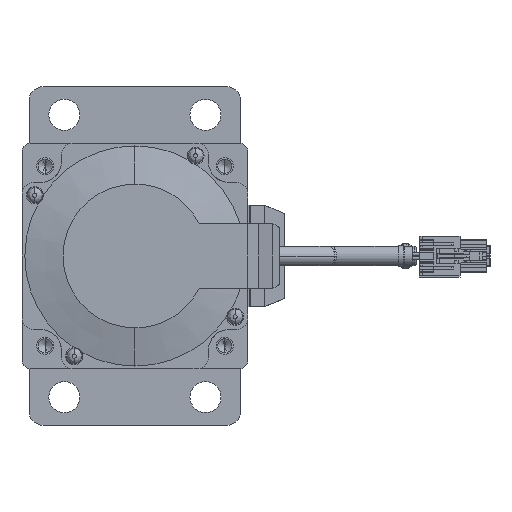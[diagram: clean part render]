
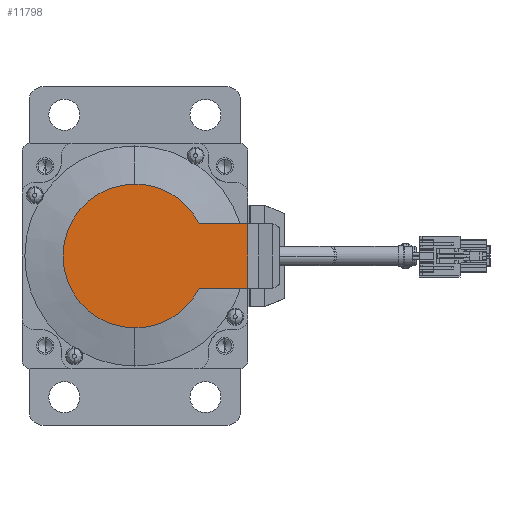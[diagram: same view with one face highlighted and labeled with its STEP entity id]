
A CAD part, left-side view. The second image highlights one B-rep face of the part: STEP entity #11798.
In plain terms, the highlighted planar face has unit normal (-1, 0, 0).
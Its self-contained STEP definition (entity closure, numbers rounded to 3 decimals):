
#673 = ORIENTED_EDGE ( 'NONE', *, *, #8398, .F. ) ;
#1908 = DIRECTION ( 'NONE',  ( 0., 0., 1. ) ) ;
#2193 = DIRECTION ( 'NONE',  ( 0., 0., -1. ) ) ;
#2278 = CARTESIAN_POINT ( 'NONE',  ( -112.2, 31.374, -11.45 ) ) ;
#2351 = AXIS2_PLACEMENT_3D ( 'NONE', #7949, #14394, #2193 ) ;
#4444 = CARTESIAN_POINT ( 'NONE',  ( -112.2, 0., -25.468 ) ) ;
#5031 = VECTOR ( 'NONE', #1908, 1000. ) ;
#6961 = ORIENTED_EDGE ( 'NONE', *, *, #16655, .F. ) ;
#7949 = CARTESIAN_POINT ( 'NONE',  ( -112.2, 0., 0. ) ) ;
#8267 = CARTESIAN_POINT ( 'NONE',  ( -112.2, 0., 25.468 ) ) ;
#8398 = EDGE_CURVE ( 'NONE', #30663, #23965, #36387, .T. ) ;
#8941 = CARTESIAN_POINT ( 'NONE',  ( -112.2, 40., 11.45 ) ) ;
#9222 = VERTEX_POINT ( 'NONE', #4444 ) ;
#10755 = ORIENTED_EDGE ( 'NONE', *, *, #18415, .F. ) ;
#10935 = ORIENTED_EDGE ( 'NONE', *, *, #26953, .F. ) ;
#11244 = CARTESIAN_POINT ( 'NONE',  ( -112.2, 31.374, 11.45 ) ) ;
#11798 = ADVANCED_FACE ( 'NONE', ( #29811 ), #15240, .T. ) ;
#12350 = DIRECTION ( 'NONE',  ( -1., 0., 0. ) ) ;
#13403 = CIRCLE ( 'NONE', #20141, 25.468 ) ;
#13766 = DIRECTION ( 'NONE',  ( 0., 1., 0. ) ) ;
#13860 = VECTOR ( 'NONE', #13766, 1000. ) ;
#14394 = DIRECTION ( 'NONE',  ( 1., 0., 0. ) ) ;
#14678 = CARTESIAN_POINT ( 'NONE',  ( -112.2, -25.468, 25.802 ) ) ;
#15240 = PLANE ( 'NONE',  #31417 ) ;
#16655 = EDGE_CURVE ( 'NONE', #36796, #27848, #28113, .T. ) ;
#18281 = AXIS2_PLACEMENT_3D ( 'NONE', #37242, #34757, #31495 ) ;
#18415 = EDGE_CURVE ( 'NONE', #27848, #9222, #13403, .T. ) ;
#18423 = EDGE_LOOP ( 'NONE', ( #10935, #33898, #10755, #6961, #36568, #673 ) ) ;
#18859 = CARTESIAN_POINT ( 'NONE',  ( -112.2, 22.749, 11.45 ) ) ;
#19482 = CIRCLE ( 'NONE', #2351, 25.468 ) ;
#20141 = AXIS2_PLACEMENT_3D ( 'NONE', #26465, #26643, #32770 ) ;
#20216 = EDGE_CURVE ( 'NONE', #23965, #36796, #20440, .T. ) ;
#20440 = LINE ( 'NONE', #11244, #20852 ) ;
#20852 = VECTOR ( 'NONE', #34636, 1000. ) ;
#21195 = DIRECTION ( 'NONE',  ( 0., 1., 0. ) ) ;
#22237 = LINE ( 'NONE', #2278, #13860 ) ;
#23965 = VERTEX_POINT ( 'NONE', #8941 ) ;
#24908 = CARTESIAN_POINT ( 'NONE',  ( -112.2, 40., 0. ) ) ;
#26465 = CARTESIAN_POINT ( 'NONE',  ( -112.2, 0., 0. ) ) ;
#26643 = DIRECTION ( 'NONE',  ( 1., 0., 0. ) ) ;
#26953 = EDGE_CURVE ( 'NONE', #27497, #30663, #22237, .T. ) ;
#27332 = CARTESIAN_POINT ( 'NONE',  ( -112.2, 40., -11.45 ) ) ;
#27497 = VERTEX_POINT ( 'NONE', #31725 ) ;
#27848 = VERTEX_POINT ( 'NONE', #8267 ) ;
#28113 = CIRCLE ( 'NONE', #18281, 25.468 ) ;
#29811 = FACE_OUTER_BOUND ( 'NONE', #18423, .T. ) ;
#30663 = VERTEX_POINT ( 'NONE', #27332 ) ;
#31417 = AXIS2_PLACEMENT_3D ( 'NONE', #14678, #12350, #21195 ) ;
#31495 = DIRECTION ( 'NONE',  ( 0., 0., -1. ) ) ;
#31725 = CARTESIAN_POINT ( 'NONE',  ( -112.2, 22.749, -11.45 ) ) ;
#32770 = DIRECTION ( 'NONE',  ( 0., 0., -1. ) ) ;
#33898 = ORIENTED_EDGE ( 'NONE', *, *, #33993, .F. ) ;
#33993 = EDGE_CURVE ( 'NONE', #9222, #27497, #19482, .T. ) ;
#34636 = DIRECTION ( 'NONE',  ( 0., -1., 0. ) ) ;
#34757 = DIRECTION ( 'NONE',  ( 1., 0., 0. ) ) ;
#36387 = LINE ( 'NONE', #24908, #5031 ) ;
#36568 = ORIENTED_EDGE ( 'NONE', *, *, #20216, .F. ) ;
#36796 = VERTEX_POINT ( 'NONE', #18859 ) ;
#37242 = CARTESIAN_POINT ( 'NONE',  ( -112.2, 0., 0. ) ) ;
